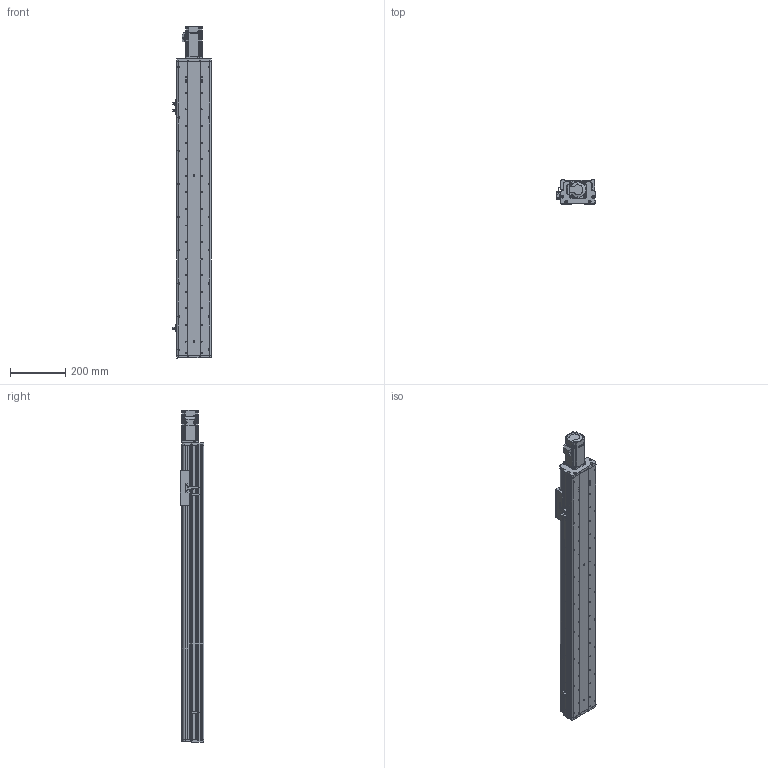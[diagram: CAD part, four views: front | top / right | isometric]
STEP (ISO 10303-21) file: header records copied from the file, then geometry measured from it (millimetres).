
FILE_DESCRIPTION (( 'STEP AP214' ), '1' );
FILE_NAME ('KSD125S-S800-MN-CM.STEP', '2017-08-07T06:18:18', ( '微软用户' ), ( '微软中国' ), 'SwSTEP 2.0', 'SolidWorks 2014', '' );
FILE_SCHEMA (( 'AUTOMOTIVE_DESIGN' ));
Length unit declared in the file: millimetre
Products named in the file (12): U倰嫖萇EEㄜSX672; KSD125-賑雄釱1; CS-34X32-10X14; 125-帣傷啣1; KSD125S-S800-MN-CM; KSD125S-800行程丝杆防尘盖-直连不带电机座; KSD125S-800行程丝杆底板-直连不带电机座; 125宽模组 - 直连不带电机座电机安装板; MHMD042G1CA_2_03; 拸萇儂釱滅袉菜; 覜茼え68遵圉猾敕; U倰嫖萇假蚾璃
Assembly tree (15 placements, depth 2):
  KSD125S-S800-MN-CM
    125-帣傷啣1
    CS-34X32-10X14
    KSD125-賑雄釱1
    U倰嫖萇EEㄜSX672  x3
    U倰嫖萇假蚾璃  x3
    覜茼え68遵圉猾敕
    拸萇儂釱滅袉菜
    MHMD042G1CA_2_03
    125宽模组 - 直连不带电机座电机安装板
    KSD125S-800行程丝杆底板-直连不带电机座
    KSD125S-800行程丝杆防尘盖-直连不带电机座
Bounding box: 138.7 x 86 x 1201.5 mm (x, y, z)
Volume: 3453914.1 mm3; surface area: 1131192.2 mm2
Topology: 14 solids, 17 shells, 1486 faces, 4305 edges, 2833 vertices
Faces by surface type: cylinder 752, plane 621, cone 91, bspline 22
Entity records: 52542 total; most frequent: CARTESIAN_POINT 11184, DIRECTION 7453, ORIENTED_EDGE 7118, EDGE_CURVE 3637, AXIS2_PLACEMENT_3D 2744, VERTEX_POINT 2425, LINE 1965, VECTOR 1965
